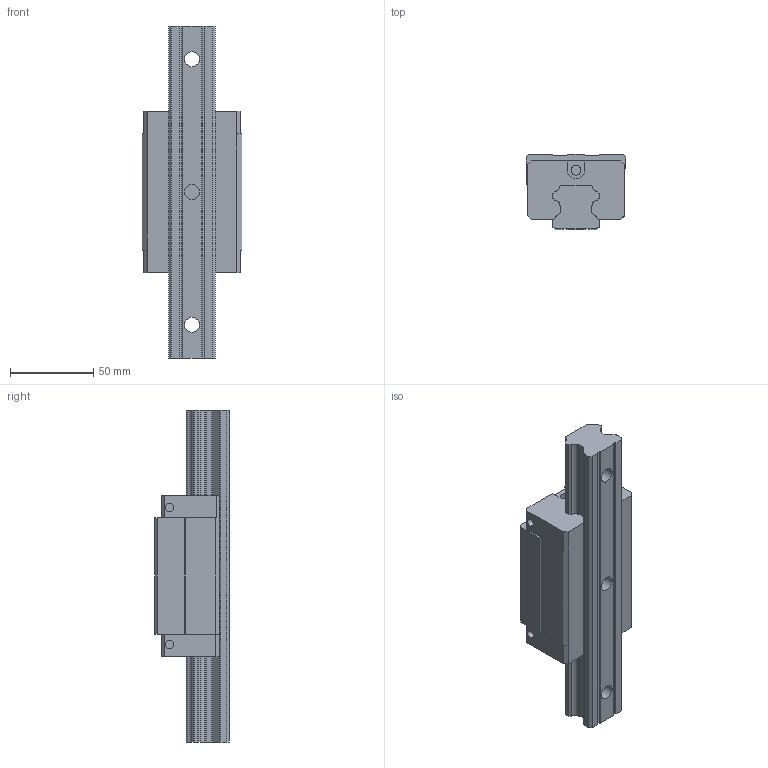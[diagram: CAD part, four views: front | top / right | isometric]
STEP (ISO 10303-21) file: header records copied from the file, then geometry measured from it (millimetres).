
FILE_DESCRIPTION((''),'2;1');
FILE_NAME('QHH30C_ASM','2008-07-11T',('tjchen'),(''),'PRO/ENGINEER BY PARAMETRIC TECHNOLOGY CORPORATION, 2004360','PRO/ENGINEER BY PARAMETRIC TECHNOLOGY CORPORATION, 2004360','');
FILE_SCHEMA(('CONFIG_CONTROL_DESIGN'));
Length unit declared in the file: millimetre
Products named in the file (3): QHH30_1_1_3; HGR30_1_1_1; QHH30C_ASM
Assembly tree (2 placements, depth 2):
  QHH30C_ASM
    QHH30_1_1_3
    HGR30_1_1_1
Bounding box: 60 x 45 x 200 mm (x, y, z)
Volume: 283642.8 mm3; surface area: 53884.5 mm2
Topology: 2 solids, 2 shells, 177 faces, 512 edges, 352 vertices
Faces by surface type: plane 101, cylinder 76
Entity records: 5999 total; most frequent: CARTESIAN_POINT 1046, DIRECTION 1028, ORIENTED_EDGE 1024, EDGE_CURVE 512, VECTOR 360, LINE 360, VERTEX_POINT 352, AXIS2_PLACEMENT_3D 334
